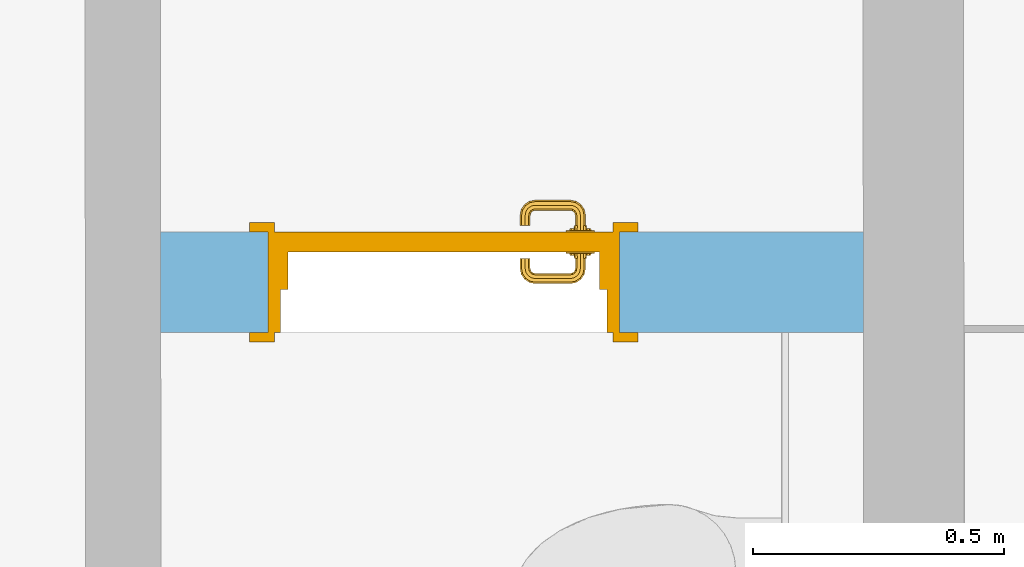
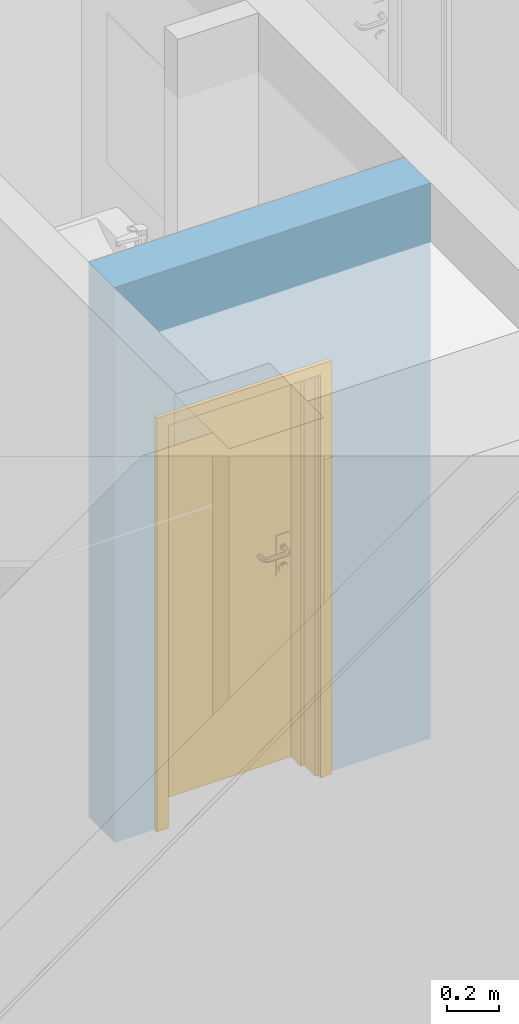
# One storey, part 36 of 127: 1 door, 1 opening, plus 1 element that does not belong to this part.
"""IFC2X3 building model written with IfcOpenShell, lengths in millimetres."""

from ifc_helpers import new_model, entity, si_unit, converted_unit, derived_unit, money_unit, direction, frame, origin_with_axes, origin_2d_with_axis, place, context, subcontext, project, spatial, polyline, rectangle, outline, extrude, open_shell, faceted_brep, surface_model, material, layer, layer_set, layer_usage, type_object, element, fill, save


model = new_model("IFC2X3")

# Units and contexts
model_context = context("Model", 3, precision=1e-05, world=origin_with_axes(), true_north=direction((0.0, 1.0)))
body_context = subcontext(model_context, "Body", "Model", "MODEL_VIEW")
ifc_project = project(units=[si_unit("LENGTHUNIT", "METRE", prefix="MILLI"), si_unit("AREAUNIT", "SQUARE_METRE"), si_unit("VOLUMEUNIT", "CUBIC_METRE"), converted_unit("PLANEANGLEUNIT", "DEGREE", entity("IfcPlaneAngleMeasure", 0.0174532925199), si_unit("PLANEANGLEUNIT", "RADIAN"), dimensions=[0, 0, 0, 0, 0, 0, 0]), si_unit("SOLIDANGLEUNIT", "STERADIAN"), money_unit("EUR"), converted_unit("TIMEUNIT", "Year", entity("IfcTimeMeasure", 31556926.0), si_unit("TIMEUNIT", "SECOND"), dimensions=[0, 0, 1, 0, 0, 0, 0]), si_unit("MASSUNIT", "GRAM", prefix="KILO"), si_unit("THERMODYNAMICTEMPERATUREUNIT", "DEGREE_CELSIUS"), si_unit("LUMINOUSINTENSITYUNIT", "LUMEN"), si_unit("ENERGYUNIT", "JOULE", prefix="MEGA"), derived_unit("THERMALCONDUCTANCEUNIT", [(si_unit("POWERUNIT", "WATT"), 1), (si_unit("LENGTHUNIT", "METRE"), -1), (si_unit("THERMODYNAMICTEMPERATUREUNIT", "KELVIN"), -1)]), derived_unit("SPECIFICHEATCAPACITYUNIT", [(si_unit("ENERGYUNIT", "JOULE"), 1), (si_unit("MASSUNIT", "GRAM", prefix="KILO"), -1), (si_unit("THERMODYNAMICTEMPERATUREUNIT", "KELVIN"), -1)]), derived_unit("MASSDENSITYUNIT", [(si_unit("MASSUNIT", "GRAM", prefix="KILO"), 1), (si_unit("VOLUMEUNIT", "CUBIC_METRE"), -1)])], contexts=[model_context])

# Site, building, storey
site_placement = place(None, origin_with_axes())
site = spatial("IfcSite", under=ifc_project, at=site_placement, Name="Site", CompositionType="ELEMENT")
building_placement = place(site_placement, origin_with_axes())
building = spatial("IfcBuilding", under=site, at=building_placement, Name="Building", CompositionType="ELEMENT")
storey_placement = place(building_placement, origin_with_axes())
storey = spatial("IfcBuildingStorey", under=building, at=storey_placement, Name="1 KORRUS", CompositionType="ELEMENT", Elevation=0.0)

# Wall, opening, door
ifc_material = material(Name="Kivi -Ol.Olev Konstruktsioon")
ifc_layer = layer(ifc_material, 200.0, ventilated="UNKNOWN")
ifc_layer_set = layer_set([ifc_layer], Name="ol.olev ss 200")
ifc_layer_usage = layer_usage(ifc_layer_set, "AXIS2", "POSITIVE", 0.0)
wall_type = type_object("IfcWallType", Name="SW - 036", PredefinedType="NOTDEFINED")
wall_placement = place(storey_placement, frame((24743.8891133, 35914.8641392, 0.0), z_axis=(0.0, 0.0, 1.0), x_axis=(1.0, 0.0, 0.0)))
wall = element("IfcWallStandardCase", 1, at=wall_placement, inside=storey, type_object=wall_type, material=ifc_layer_usage, Name="ol.olev ss 200", context=body_context, shape_type="SweptSolid", body=[
    extrude(outline(polyline([(150.00011126, 0.0), (1549.77627619, 0.0), (1549.53273874, 200.0), (149.756573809, 200.0), (150.00011126, 0.0)])), origin_with_axes(), (0.0, 0.0, 1.0), 2600.0),
])
opening_placement = place(wall_placement, frame((713.987273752, 0.0, 0.0), z_axis=(0.0, 0.0, 1.0), x_axis=(1.0, 0.0, 0.0)))
opening = element("IfcOpeningElement", 2, at=opening_placement, cuts=wall, Name="Siseuks * Door 22", context=body_context, shape_type="SweptSolid", body=[
    extrude(rectangle(XDim=700.0, YDim=1900.0, at=origin_2d_with_axis()), frame((0.0, -200.0, 950.0), z_axis=(0.0, -1.0, 0.0), x_axis=(-1.0, 0.0, 0.0)), (0.0, 0.0, -1.0), 600.0),
    extrude(rectangle(XDim=774.0, YDim=1937.0, at=origin_2d_with_axis()), frame((0.0, 0.0, 968.5), z_axis=(0.0, -1.0, 0.0), x_axis=(-1.0, 0.0, 0.0)), (0.0, 0.0, 1.0), 200.0),
    extrude(rectangle(XDim=774.0, YDim=1937.0, at=origin_2d_with_axis()), frame((0.0, 200.0, 968.5), z_axis=(0.0, 1.0, 0.0), x_axis=(-1.0, 0.0, 0.0)), (0.0, 0.0, 1.0), 200.0),
])
door_style = type_object("IfcDoorStyle", Name="SU-B104A   700×1\xa0900", ConstructionType="NOTDEFINED", OperationType="SINGLE_SWING_LEFT", ParameterTakesPrecedence=False, Sizeable=False)
door_placement = place(opening_placement, frame((-350.0, 0.0, 0.0), z_axis=(0.0, 0.0, 1.0), x_axis=(1.0, 0.0, 0.0)))
door = element("IfcDoor", 3, at=door_placement, inside=storey, type_object=door_style, Name="Siseuks * Door 22", OverallHeight=1900.0, OverallWidth=700.0, context=body_context, shape_type="SurfaceModel", body=[
    faceted_brep([(700.0, 85.0, 0.0), (700.0, 0.0, 0.0), (675.0, 0.0, 0.0), (675.0, 85.0, 0.0), (700.0, 85.0, 1900.0), (700.0, 0.0, 1900.0), (675.0, 0.0, 1875.0), (675.0, 85.0, 1875.0)], [[[0, 1, 2, 3]], [[4, 5, 1, 0]], [[1, 5, 6, 2]], [[3, 2, 6, 7]], [[0, 3, 7, 4]], [[7, 6, 5, 4]]]),
    faceted_brep([(0.0, 85.0, 1900.0), (0.0, 0.0, 1900.0), (25.0, 0.0, 1875.0), (25.0, 85.0, 1875.0), (0.0, 85.0, 0.0), (0.0, 0.0, 0.0), (25.0, 0.0, 0.0), (25.0, 85.0, 0.0)], [[[0, 1, 2, 3]], [[4, 5, 1, 0]], [[1, 5, 6, 2]], [[3, 2, 6, 7]], [[0, 3, 7, 4]], [[7, 6, 5, 4]]]),
    faceted_brep([(675.0, 85.0, 1875.0), (675.0, 0.0, 1875.0), (25.0, 0.0, 1875.0), (25.0, 85.0, 1875.0), (700.0, 85.0, 1900.0), (700.0, 0.0, 1900.0), (0.0, 0.0, 1900.0), (0.0, 85.0, 1900.0)], [[[0, 1, 2, 3]], [[4, 5, 1, 0]], [[1, 5, 6, 2]], [[3, 2, 6, 7]], [[0, 3, 7, 4]], [[7, 6, 5, 4]]]),
    faceted_brep([(737.0, -19.0000000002, 0.0), (687.0, -19.0000000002, 0.0), (687.0, 0.0, 0.0), (737.0, 0.0, 0.0), (737.0, -19.0000000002, 1937.0), (687.0, -19.0000000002, 1887.0), (687.0, 0.0, 1887.0), (737.0, 0.0, 1937.0)], [[[0, 1, 2, 3]], [[0, 4, 5, 1]], [[1, 5, 6, 2]], [[3, 2, 6, 7]], [[4, 0, 3, 7]], [[5, 4, 7, 6]]]),
    faceted_brep([(-36.9999999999, -19.0000000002, 1937.0), (13.0, -19.0000000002, 1887.0), (13.0, 0.0, 1887.0), (-36.9999999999, 0.0, 1937.0), (-36.9999999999, -19.0000000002, 0.0), (13.0, -19.0000000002, 0.0), (13.0, 0.0, 0.0), (-36.9999999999, 0.0, 0.0)], [[[0, 1, 2, 3]], [[0, 4, 5, 1]], [[1, 5, 6, 2]], [[3, 2, 6, 7]], [[4, 0, 3, 7]], [[5, 4, 7, 6]]]),
    faceted_brep([(737.0, -19.0000000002, 1937.0), (687.0, -19.0000000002, 1887.0), (687.0, 0.0, 1887.0), (737.0, 0.0, 1937.0), (-36.9999999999, -19.0000000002, 1937.0), (13.0, -19.0000000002, 1887.0), (13.0, 0.0, 1887.0), (-36.9999999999, 0.0, 1937.0)], [[[0, 1, 2, 3]], [[0, 4, 5, 1]], [[1, 5, 6, 2]], [[3, 2, 6, 7]], [[4, 0, 3, 7]], [[5, 4, 7, 6]]]),
    faceted_brep([(737.0, 219.0, 0.0), (737.0, 200.0, 0.0), (687.0, 200.0, 0.0), (687.0, 219.0, 0.0), (737.0, 219.0, 1937.0), (737.0, 200.0, 1937.0), (687.0, 200.0, 1887.0), (687.0, 219.0, 1887.0)], [[[0, 1, 2, 3]], [[4, 5, 1, 0]], [[1, 5, 6, 2]], [[3, 2, 6, 7]], [[0, 3, 7, 4]], [[7, 6, 5, 4]]]),
    faceted_brep([(-36.9999999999, 219.0, 1937.0), (-36.9999999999, 200.0, 1937.0), (13.0, 200.0, 1887.0), (13.0, 219.0, 1887.0), (-36.9999999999, 219.0, 0.0), (-36.9999999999, 200.0, 0.0), (13.0, 200.0, 0.0), (13.0, 219.0, 0.0)], [[[0, 1, 2, 3]], [[4, 5, 1, 0]], [[1, 5, 6, 2]], [[3, 2, 6, 7]], [[0, 3, 7, 4]], [[7, 6, 5, 4]]]),
    faceted_brep([(737.0, 219.0, 1937.0), (737.0, 200.0, 1937.0), (687.0, 200.0, 1887.0), (687.0, 219.0, 1887.0), (-36.9999999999, 219.0, 1937.0), (-36.9999999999, 200.0, 1937.0), (13.0, 200.0, 1887.0), (13.0, 219.0, 1887.0)], [[[0, 1, 2, 3]], [[4, 5, 1, 0]], [[1, 5, 6, 2]], [[3, 2, 6, 7]], [[0, 3, 7, 4]], [[7, 6, 5, 4]]]),
    faceted_brep([(660.0, 160.0, 0.0), (660.0, 85.0, 0.0), (660.0, 85.0, 1860.0), (660.0, 160.0, 1860.0), (672.0, 160.0, 0.0), (672.0, 200.0, 0.0), (700.0, 200.0, 0.0), (700.0, 85.0, 0.0), (700.0, 85.0, 1860.0), (672.0, 160.0, 1860.0), (700.0, 200.0, 1860.0), (672.0, 200.0, 1860.0)], [[[0, 1, 2, 3]], [[4, 5, 6, 7, 1, 0]], [[1, 7, 8, 2]], [[9, 3, 2, 8, 10, 11]], [[9, 4, 0, 3]], [[11, 5, 4, 9]], [[11, 10, 6, 5]], [[6, 10, 8, 7]]]),
    faceted_brep([(28.0, 160.0, 1860.0), (28.0, 200.0, 1860.0), (0.0, 200.0, 1860.0), (0.0, 85.0, 1860.0), (40.0000000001, 85.0, 1860.0), (40.0000000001, 160.0, 1860.0), (28.0, 160.0, 0.0), (28.0, 200.0, 0.0), (0.0, 200.0, 0.0), (0.0, 85.0, 0.0), (40.0000000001, 85.0, 0.0), (40.0000000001, 160.0, 0.0)], [[[0, 1, 2, 3, 4, 5]], [[0, 6, 7, 1]], [[7, 8, 2, 1]], [[2, 8, 9, 3]], [[3, 9, 10, 4]], [[5, 4, 10, 11]], [[5, 11, 6, 0]], [[6, 11, 10, 9, 8, 7]]]),
    faceted_brep([(672.0, 200.0, 1872.0), (28.0, 200.0, 1872.0), (28.0, 200.0, 1860.0), (0.0, 200.0, 1860.0), (0.0, 200.0, 1900.0), (700.0, 200.0, 1900.0), (700.0, 200.0, 1860.0), (672.0, 200.0, 1860.0), (672.0, 160.0, 1872.0), (28.0, 160.0, 1872.0), (28.0, 160.0, 1860.0), (40.0000000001, 160.0, 1860.0), (40.0000000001, 85.0, 1860.0), (0.0, 85.0, 1860.0), (0.0, 85.0, 1900.0), (700.0, 85.0, 1900.0), (700.0, 85.0, 1860.0), (672.0, 160.0, 1860.0), (660.0, 85.0, 1860.0), (660.0, 160.0, 1860.0)], [[[0, 1, 2, 3, 4, 5, 6, 7]], [[0, 8, 9, 1]], [[1, 9, 10, 2]], [[10, 11, 12, 13, 3, 2]], [[4, 3, 13, 14]], [[5, 4, 14, 15]], [[6, 5, 15, 16]], [[17, 7, 6, 16, 18, 19]], [[7, 17, 8, 0]], [[10, 9, 8, 17, 19, 11]], [[19, 18, 12, 11]], [[12, 18, 16, 15, 14, 13]]]),
    faceted_brep([(650.5, 160.0, 1060.0), (593.5, 160.0, 1060.0), (593.5, 157.0, 1060.0), (650.5, 157.0, 1060.0), (650.5, 160.0, 870.0), (593.5, 160.0, 870.0), (593.5, 157.0, 870.0), (650.5, 157.0, 870.0)], [[[0, 1, 2, 3]], [[0, 4, 5, 1]], [[1, 5, 6, 2]], [[3, 2, 6, 7]], [[4, 0, 3, 7]], [[5, 4, 7, 6]]]),
    surface_model("IfcShellBasedSurfaceModel", [(612.0, 147.0, 1000.0), (614.928932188, 147.0, 992.928932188), (614.928932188, 127.696439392, 992.928932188), (612.0, 127.984914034, 1000.0), (622.0, 147.0, 990.0), (622.0, 126.999999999, 990.0), (613.816790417, 122.105325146, 992.928932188), (611.057796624, 123.248137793, 1000.0), (614.928932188, 147.0, 1007.07106781), (614.928932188, 127.696439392, 1007.07106781), (629.071067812, 147.0, 992.928932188), (629.071067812, 126.303560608, 992.928932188), (620.47759065, 119.346331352, 990.0), (611.044179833, 117.955820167, 992.928932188), (608.932537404, 120.067462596, 1000.0), (613.816790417, 122.105325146, 1007.07106781), (622.0, 147.0, 1010.0), (622.0, 126.999999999, 1010.0), (632.0, 147.0, 1000.0), (632.0, 126.015085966, 1000.0), (627.138390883, 116.587337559, 992.928932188), (616.142135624, 112.857864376, 990.0), (606.894674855, 115.183209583, 992.928932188), (605.751862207, 117.942203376, 1000.0), (611.044179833, 117.955820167, 1007.07106781), (620.47759065, 119.346331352, 1010.0), (629.071067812, 147.0, 1007.07106781), (629.071067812, 126.303560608, 1007.07106781), (629.897384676, 115.444524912, 1000.0), (621.240091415, 107.759908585, 992.928932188), (609.653668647, 108.522409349, 990.0), (601.303560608, 114.071067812, 992.928932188), (601.015085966, 117.0, 1000.0), (606.894674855, 115.183209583, 1007.07106781), (616.142135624, 112.857864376, 1010.0), (627.138390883, 116.587337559, 1007.07106781), (623.351733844, 105.648266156, 1000.0), (612.41266244, 101.861609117, 992.928932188), (602.0, 107.0, 990.0), (532.696439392, 114.071067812, 992.928932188), (532.984914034, 117.0, 1000.0), (601.303560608, 114.071067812, 1007.07106781), (609.653668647, 108.522409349, 1010.0), (621.240091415, 107.759908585, 1007.07106781), (613.555475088, 99.1026153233, 1000.0), (602.696439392, 99.928932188, 992.928932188), (532.0, 107.0, 990.0), (527.105325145, 115.183209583, 992.928932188), (528.248137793, 117.942203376, 1000.0), (532.696439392, 114.071067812, 1007.07106781), (602.0, 107.0, 1010.0), (612.41266244, 101.861609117, 1007.07106781), (602.984914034, 96.9999999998, 1000.0), (531.303560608, 99.928932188, 992.928932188), (524.346331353, 108.522409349, 990.0), (522.955820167, 117.955820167, 992.928932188), (525.067462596, 120.067462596, 1000.0), (527.105325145, 115.183209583, 1007.07106781), (532.0, 107.0, 1010.0), (602.696439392, 99.928932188, 1007.07106781), (531.015085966, 96.9999999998, 1000.0), (521.58733756, 101.861609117, 992.928932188), (517.857864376, 112.857864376, 990.0), (520.183209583, 122.105325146, 992.928932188), (522.942203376, 123.248137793, 1000.0), (522.955820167, 117.955820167, 1007.07106781), (524.346331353, 108.522409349, 1010.0), (531.303560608, 99.928932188, 1007.07106781), (520.444524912, 99.1026153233, 1000.0), (512.759908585, 107.759908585, 992.928932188), (513.52240935, 119.346331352, 990.0), (519.071067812, 127.696439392, 992.928932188), (522.0, 127.984914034, 1000.0), (520.183209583, 122.105325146, 1007.07106781), (517.857864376, 112.857864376, 1010.0), (521.58733756, 101.861609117, 1007.07106781), (510.648266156, 105.648266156, 1000.0), (506.861609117, 116.587337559, 992.928932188), (512.0, 126.999999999, 990.0), (519.071067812, 147.0, 992.928932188), (522.0, 147.0, 1000.0), (519.071067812, 127.696439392, 1007.07106781), (513.52240935, 119.346331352, 1010.0), (512.759908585, 107.759908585, 1007.07106781), (504.102615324, 115.444524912, 1000.0), (504.928932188, 126.303560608, 992.928932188), (512.0, 147.0, 990.0), (504.928932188, 147.0, 992.928932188), (502.0, 147.0, 1000.0), (504.928932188, 147.0, 1007.07106781), (512.0, 147.0, 1010.0), (519.071067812, 147.0, 1007.07106781), (512.0, 126.999999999, 1010.0), (506.861609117, 116.587337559, 1007.07106781), (502.0, 126.015085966, 1000.0), (504.928932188, 126.303560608, 1007.07106781)], [open_shell([[[0, 1, 2, 3]], [[1, 4, 5, 2]], [[3, 2, 6, 7]], [[8, 0, 3, 9]], [[4, 10, 11, 5]], [[2, 5, 12, 6]], [[7, 6, 13, 14]], [[9, 3, 7, 15]], [[16, 8, 9, 17]], [[10, 18, 19, 11]], [[5, 11, 20, 12]], [[6, 12, 21, 13]], [[14, 13, 22, 23]], [[15, 7, 14, 24]], [[17, 9, 15, 25]], [[26, 16, 17, 27]], [[18, 26, 27, 19]], [[11, 19, 28, 20]], [[12, 20, 29, 21]], [[13, 21, 30, 22]], [[23, 22, 31, 32]], [[24, 14, 23, 33]], [[25, 15, 24, 34]], [[27, 17, 25, 35]], [[19, 27, 35, 28]], [[20, 28, 36, 29]], [[21, 29, 37, 30]], [[22, 30, 38, 31]], [[32, 31, 39, 40]], [[33, 23, 32, 41]], [[34, 24, 33, 42]], [[35, 25, 34, 43]], [[28, 35, 43, 36]], [[29, 36, 44, 37]], [[30, 37, 45, 38]], [[31, 38, 46, 39]], [[40, 39, 47, 48]], [[41, 32, 40, 49]], [[42, 33, 41, 50]], [[43, 34, 42, 51]], [[36, 43, 51, 44]], [[37, 44, 52, 45]], [[38, 45, 53, 46]], [[39, 46, 54, 47]], [[48, 47, 55, 56]], [[49, 40, 48, 57]], [[50, 41, 49, 58]], [[51, 42, 50, 59]], [[44, 51, 59, 52]], [[45, 52, 60, 53]], [[46, 53, 61, 54]], [[47, 54, 62, 55]], [[56, 55, 63, 64]], [[57, 48, 56, 65]], [[58, 49, 57, 66]], [[59, 50, 58, 67]], [[52, 59, 67, 60]], [[53, 60, 68, 61]], [[54, 61, 69, 62]], [[55, 62, 70, 63]], [[64, 63, 71, 72]], [[65, 56, 64, 73]], [[66, 57, 65, 74]], [[67, 58, 66, 75]], [[60, 67, 75, 68]], [[61, 68, 76, 69]], [[62, 69, 77, 70]], [[63, 70, 78, 71]], [[72, 71, 79, 80]], [[73, 64, 72, 81]], [[74, 65, 73, 82]], [[75, 66, 74, 83]], [[68, 75, 83, 76]], [[69, 76, 84, 77]], [[70, 77, 85, 78]], [[71, 78, 86, 79]], [[80, 79, 86, 87, 88, 89, 90, 91]], [[81, 72, 80, 91]], [[82, 73, 81, 92]], [[83, 74, 82, 93]], [[76, 83, 93, 84]], [[77, 84, 94, 85]], [[78, 85, 87, 86]], [[85, 94, 88, 87]], [[94, 95, 89, 88]], [[95, 92, 90, 89]], [[92, 81, 91, 90]], [[93, 82, 92, 95]], [[84, 93, 95, 94]]])]),
    faceted_brep([(611.607695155, 147.0, 994.0), (610.0, 147.0, 1000.0), (609.0, 157.0, 1000.0), (610.741669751, 157.0, 993.5), (616.0, 147.0, 989.607695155), (622.0, 147.0, 988.0), (628.0, 147.0, 989.607695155), (632.392304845, 147.0, 994.0), (634.0, 147.0, 1000.0), (632.392304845, 147.0, 1006.0), (628.0, 147.0, 1010.39230485), (622.0, 147.0, 1012.0), (616.0, 147.0, 1010.39230485), (611.607695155, 147.0, 1006.0), (610.741669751, 157.0, 1006.5), (615.5, 157.0, 1011.25833025), (622.0, 157.0, 1013.0), (628.5, 157.0, 1011.25833025), (633.258330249, 157.0, 1006.5), (635.0, 157.0, 1000.0), (633.258330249, 157.0, 993.5), (628.5, 157.0, 988.741669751), (622.0, 157.0, 987.0), (615.5, 157.0, 988.741669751)], [[[0, 1, 2, 3]], [[1, 0, 4, 5, 6, 7, 8, 9, 10, 11, 12, 13]], [[1, 13, 14, 2]], [[2, 14, 15, 16, 17, 18, 19, 20, 21, 22, 23, 3]], [[4, 0, 3, 23]], [[5, 4, 23, 22]], [[6, 5, 22, 21]], [[7, 6, 21, 20]], [[8, 7, 20, 19]], [[9, 8, 19, 18]], [[10, 9, 18, 17]], [[11, 10, 17, 16]], [[12, 11, 16, 15]], [[13, 12, 15, 14]]]),
    faceted_brep([(604.679491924, 153.0, 895.0), (602.0, 153.0, 905.0), (600.0, 157.0, 905.0), (602.947441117, 157.0, 894.0), (612.0, 153.0, 887.679491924), (622.0, 153.0, 885.0), (632.0, 153.0, 887.679491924), (639.320508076, 153.0, 895.0), (642.0, 153.0, 905.0), (639.320508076, 153.0, 915.0), (632.0, 153.0, 922.320508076), (622.0, 153.0, 925.0), (612.0, 153.0, 922.320508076), (604.679491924, 153.0, 915.0), (602.947441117, 157.0, 916.0), (611.0, 157.0, 924.052558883), (622.0, 157.0, 927.0), (633.0, 157.0, 924.052558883), (641.052558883, 157.0, 916.0), (644.0, 157.0, 905.0), (641.052558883, 157.0, 894.0), (633.0, 157.0, 885.947441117), (622.0, 157.0, 883.0), (611.0, 157.0, 885.947441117)], [[[0, 1, 2, 3]], [[1, 0, 4, 5, 6, 7, 8, 9, 10, 11, 12, 13]], [[1, 13, 14, 2]], [[2, 14, 15, 16, 17, 18, 19, 20, 21, 22, 23, 3]], [[4, 0, 3, 23]], [[5, 4, 23, 22]], [[6, 5, 22, 21]], [[7, 6, 21, 20]], [[8, 7, 20, 19]], [[9, 8, 19, 18]], [[10, 9, 18, 17]], [[11, 10, 17, 16]], [[12, 11, 16, 15]], [[13, 12, 15, 14]]]),
    faceted_brep([(617.050252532, 151.0, 909.050252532), (615.0, 151.0, 914.0), (614.0, 153.0, 914.0), (616.343145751, 153.0, 908.343145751), (622.0, 151.0, 907.0), (626.949747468, 151.0, 909.050252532), (629.0, 151.0, 914.0), (626.949747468, 151.0, 918.949747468), (622.0, 151.0, 921.0), (617.050252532, 151.0, 918.949747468), (616.343145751, 153.0, 919.656854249), (622.0, 153.0, 922.0), (627.656854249, 153.0, 919.656854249), (630.0, 153.0, 914.0), (627.656854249, 153.0, 908.343145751), (622.0, 153.0, 906.0)], [[[0, 1, 2, 3]], [[1, 0, 4, 5, 6, 7, 8, 9]], [[1, 9, 10, 2]], [[2, 10, 11, 12, 13, 14, 15, 3]], [[4, 0, 3, 15]], [[5, 4, 15, 14]], [[6, 5, 14, 13]], [[7, 6, 13, 12]], [[8, 7, 12, 11]], [[9, 8, 11, 10]]]),
    faceted_brep([(650.5, 200.0, 1060.0), (650.5, 203.0, 1060.0), (593.5, 203.0, 1060.0), (593.5, 200.0, 1060.0), (650.5, 200.0, 870.0), (650.5, 203.0, 870.0), (593.5, 203.0, 870.0), (593.5, 200.0, 870.0)], [[[0, 1, 2, 3]], [[4, 5, 1, 0]], [[1, 5, 6, 2]], [[3, 2, 6, 7]], [[0, 3, 7, 4]], [[7, 6, 5, 4]]]),
    surface_model("IfcShellBasedSurfaceModel", [(612.0, 213.0, 1000.0), (612.0, 232.015085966, 1000.0), (614.928932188, 232.303560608, 992.928932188), (614.928932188, 213.0, 992.928932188), (614.928932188, 213.0, 1007.07106781), (614.928932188, 232.303560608, 1007.07106781), (611.057796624, 236.751862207, 1000.0), (613.816790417, 237.894674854, 992.928932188), (622.0, 233.0, 990.0), (622.0, 213.0, 990.0), (622.0, 213.0, 1010.0), (622.0, 233.0, 1010.0), (613.816790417, 237.894674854, 1007.07106781), (608.932537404, 239.932537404, 1000.0), (611.044179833, 242.044179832, 992.928932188), (620.47759065, 240.653668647, 990.0), (629.071067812, 233.696439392, 992.928932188), (629.071067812, 213.0, 992.928932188), (629.071067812, 213.0, 1007.07106781), (629.071067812, 233.696439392, 1007.07106781), (620.47759065, 240.653668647, 1010.0), (611.044179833, 242.044179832, 1007.07106781), (605.751862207, 242.057796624, 1000.0), (606.894674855, 244.816790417, 992.928932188), (616.142135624, 247.142135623, 990.0), (627.138390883, 243.41266244, 992.928932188), (632.0, 233.984914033, 1000.0), (632.0, 213.0, 1000.0), (627.138390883, 243.41266244, 1007.07106781), (616.142135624, 247.142135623, 1010.0), (606.894674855, 244.816790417, 1007.07106781), (601.015085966, 242.999999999, 1000.0), (601.303560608, 245.928932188, 992.928932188), (609.653668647, 251.47759065, 990.0), (621.240091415, 252.240091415, 992.928932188), (629.897384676, 244.555475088, 1000.0), (621.240091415, 252.240091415, 1007.07106781), (609.653668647, 251.47759065, 1010.0), (601.303560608, 245.928932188, 1007.07106781), (532.984914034, 242.999999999, 1000.0), (532.696439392, 245.928932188, 992.928932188), (602.0, 253.0, 990.0), (612.41266244, 258.138390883, 992.928932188), (623.351733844, 254.351733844, 1000.0), (612.41266244, 258.138390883, 1007.07106781), (602.0, 253.0, 1010.0), (532.696439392, 245.928932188, 1007.07106781), (528.248137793, 242.057796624, 1000.0), (527.105325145, 244.816790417, 992.928932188), (532.0, 253.0, 990.0), (602.696439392, 260.071067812, 992.928932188), (613.555475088, 260.897384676, 1000.0), (602.696439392, 260.071067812, 1007.07106781), (532.0, 253.0, 1010.0), (527.105325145, 244.816790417, 1007.07106781), (525.067462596, 239.932537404, 1000.0), (522.955820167, 242.044179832, 992.928932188), (524.346331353, 251.47759065, 990.0), (531.303560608, 260.071067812, 992.928932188), (602.984914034, 263.0, 1000.0), (531.303560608, 260.071067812, 1007.07106781), (524.346331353, 251.47759065, 1010.0), (522.955820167, 242.044179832, 1007.07106781), (522.942203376, 236.751862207, 1000.0), (520.183209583, 237.894674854, 992.928932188), (517.857864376, 247.142135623, 990.0), (521.58733756, 258.138390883, 992.928932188), (531.015085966, 263.0, 1000.0), (521.58733756, 258.138390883, 1007.07106781), (517.857864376, 247.142135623, 1010.0), (520.183209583, 237.894674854, 1007.07106781), (522.0, 232.015085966, 1000.0), (519.071067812, 232.303560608, 992.928932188), (513.52240935, 240.653668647, 990.0), (512.759908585, 252.240091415, 992.928932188), (520.444524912, 260.897384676, 1000.0), (512.759908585, 252.240091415, 1007.07106781), (513.52240935, 240.653668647, 1010.0), (519.071067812, 232.303560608, 1007.07106781), (522.0, 213.0, 1000.0), (519.071067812, 213.0, 992.928932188), (512.0, 233.0, 990.0), (506.861609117, 243.41266244, 992.928932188), (510.648266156, 254.351733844, 1000.0), (506.861609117, 243.41266244, 1007.07106781), (512.0, 233.0, 1010.0), (519.071067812, 213.0, 1007.07106781), (512.0, 213.0, 1010.0), (504.928932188, 213.0, 1007.07106781), (502.0, 213.0, 1000.0), (504.928932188, 213.0, 992.928932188), (512.0, 213.0, 990.0), (504.928932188, 233.696439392, 992.928932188), (504.102615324, 244.555475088, 1000.0), (504.928932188, 233.696439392, 1007.07106781), (502.0, 233.984914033, 1000.0)], [open_shell([[[0, 1, 2, 3]], [[4, 5, 1, 0]], [[1, 6, 7, 2]], [[3, 2, 8, 9]], [[10, 11, 5, 4]], [[5, 12, 6, 1]], [[6, 13, 14, 7]], [[2, 7, 15, 8]], [[9, 8, 16, 17]], [[18, 19, 11, 10]], [[11, 20, 12, 5]], [[12, 21, 13, 6]], [[13, 22, 23, 14]], [[7, 14, 24, 15]], [[8, 15, 25, 16]], [[17, 16, 26, 27]], [[27, 26, 19, 18]], [[19, 28, 20, 11]], [[20, 29, 21, 12]], [[21, 30, 22, 13]], [[22, 31, 32, 23]], [[14, 23, 33, 24]], [[15, 24, 34, 25]], [[16, 25, 35, 26]], [[26, 35, 28, 19]], [[28, 36, 29, 20]], [[29, 37, 30, 21]], [[30, 38, 31, 22]], [[31, 39, 40, 32]], [[23, 32, 41, 33]], [[24, 33, 42, 34]], [[25, 34, 43, 35]], [[35, 43, 36, 28]], [[36, 44, 37, 29]], [[37, 45, 38, 30]], [[38, 46, 39, 31]], [[39, 47, 48, 40]], [[32, 40, 49, 41]], [[33, 41, 50, 42]], [[34, 42, 51, 43]], [[43, 51, 44, 36]], [[44, 52, 45, 37]], [[45, 53, 46, 38]], [[46, 54, 47, 39]], [[47, 55, 56, 48]], [[40, 48, 57, 49]], [[41, 49, 58, 50]], [[42, 50, 59, 51]], [[51, 59, 52, 44]], [[52, 60, 53, 45]], [[53, 61, 54, 46]], [[54, 62, 55, 47]], [[55, 63, 64, 56]], [[48, 56, 65, 57]], [[49, 57, 66, 58]], [[50, 58, 67, 59]], [[59, 67, 60, 52]], [[60, 68, 61, 53]], [[61, 69, 62, 54]], [[62, 70, 63, 55]], [[63, 71, 72, 64]], [[56, 64, 73, 65]], [[57, 65, 74, 66]], [[58, 66, 75, 67]], [[67, 75, 68, 60]], [[68, 76, 69, 61]], [[69, 77, 70, 62]], [[70, 78, 71, 63]], [[71, 79, 80, 72]], [[64, 72, 81, 73]], [[65, 73, 82, 74]], [[66, 74, 83, 75]], [[75, 83, 76, 68]], [[76, 84, 77, 69]], [[77, 85, 78, 70]], [[78, 86, 79, 71]], [[79, 86, 87, 88, 89, 90, 91, 80]], [[72, 80, 91, 81]], [[73, 81, 92, 82]], [[74, 82, 93, 83]], [[83, 93, 84, 76]], [[84, 94, 85, 77]], [[85, 87, 86, 78]], [[94, 88, 87, 85]], [[95, 89, 88, 94]], [[92, 90, 89, 95]], [[81, 91, 90, 92]], [[82, 92, 95, 93]], [[93, 95, 94, 84]]])]),
    faceted_brep([(611.607695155, 213.0, 994.0), (610.741669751, 203.0, 993.5), (609.0, 203.0, 1000.0), (610.0, 213.0, 1000.0), (616.0, 213.0, 989.607695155), (615.5, 203.0, 988.741669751), (622.0, 203.0, 987.0), (628.5, 203.0, 988.741669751), (633.258330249, 203.0, 993.5), (635.0, 203.0, 1000.0), (633.258330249, 203.0, 1006.5), (628.5, 203.0, 1011.25833025), (622.0, 203.0, 1013.0), (615.5, 203.0, 1011.25833025), (610.741669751, 203.0, 1006.5), (611.607695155, 213.0, 1006.0), (616.0, 213.0, 1010.39230485), (622.0, 213.0, 1012.0), (628.0, 213.0, 1010.39230485), (632.392304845, 213.0, 1006.0), (634.0, 213.0, 1000.0), (632.392304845, 213.0, 994.0), (628.0, 213.0, 989.607695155), (622.0, 213.0, 988.0)], [[[0, 1, 2, 3]], [[4, 5, 1, 0]], [[2, 1, 5, 6, 7, 8, 9, 10, 11, 12, 13, 14]], [[3, 2, 14, 15]], [[3, 15, 16, 17, 18, 19, 20, 21, 22, 23, 4, 0]], [[23, 6, 5, 4]], [[22, 7, 6, 23]], [[21, 8, 7, 22]], [[20, 9, 8, 21]], [[19, 10, 9, 20]], [[18, 11, 10, 19]], [[17, 12, 11, 18]], [[16, 13, 12, 17]], [[15, 14, 13, 16]]]),
    faceted_brep([(604.679491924, 206.999999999, 895.0), (602.947441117, 203.0, 894.0), (600.0, 203.0, 905.0), (602.0, 206.999999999, 905.0), (612.0, 206.999999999, 887.679491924), (611.0, 203.0, 885.947441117), (622.0, 203.0, 883.0), (633.0, 203.0, 885.947441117), (641.052558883, 203.0, 894.0), (644.0, 203.0, 905.0), (641.052558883, 203.0, 916.0), (633.0, 203.0, 924.052558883), (622.0, 203.0, 927.0), (611.0, 203.0, 924.052558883), (602.947441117, 203.0, 916.0), (604.679491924, 206.999999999, 915.0), (612.0, 206.999999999, 922.320508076), (622.0, 206.999999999, 925.0), (632.0, 206.999999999, 922.320508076), (639.320508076, 206.999999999, 915.0), (642.0, 206.999999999, 905.0), (639.320508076, 206.999999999, 895.0), (632.0, 206.999999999, 887.679491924), (622.0, 206.999999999, 885.0)], [[[0, 1, 2, 3]], [[4, 5, 1, 0]], [[2, 1, 5, 6, 7, 8, 9, 10, 11, 12, 13, 14]], [[3, 2, 14, 15]], [[3, 15, 16, 17, 18, 19, 20, 21, 22, 23, 4, 0]], [[23, 6, 5, 4]], [[22, 7, 6, 23]], [[21, 8, 7, 22]], [[20, 9, 8, 21]], [[19, 10, 9, 20]], [[18, 11, 10, 19]], [[17, 12, 11, 18]], [[16, 13, 12, 17]], [[15, 14, 13, 16]]]),
    faceted_brep([(617.050252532, 209.0, 909.050252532), (616.343145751, 206.999999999, 908.343145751), (614.0, 206.999999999, 914.0), (615.0, 209.0, 914.0), (622.0, 209.0, 907.0), (622.0, 206.999999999, 906.0), (627.656854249, 206.999999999, 908.343145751), (630.0, 206.999999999, 914.0), (627.656854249, 206.999999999, 919.656854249), (622.0, 206.999999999, 922.0), (616.343145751, 206.999999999, 919.656854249), (617.050252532, 209.0, 918.949747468), (622.0, 209.0, 921.0), (626.949747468, 209.0, 918.949747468), (629.0, 209.0, 914.0), (626.949747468, 209.0, 909.050252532)], [[[0, 1, 2, 3]], [[4, 5, 1, 0]], [[2, 1, 5, 6, 7, 8, 9, 10]], [[3, 2, 10, 11]], [[3, 11, 12, 13, 14, 15, 4, 0]], [[15, 6, 5, 4]], [[14, 7, 6, 15]], [[13, 8, 7, 14]], [[12, 9, 8, 13]], [[11, 10, 9, 12]]]),
    faceted_brep([(28.0, 200.0, 0.0), (672.0, 200.0, 0.0), (672.0, 160.0, 0.0), (28.0, 160.0, 0.0), (28.0, 200.0, 1872.0), (672.0, 200.0, 1872.0), (672.0, 160.0, 1872.0), (28.0, 160.0, 1872.0)], [[[0, 1, 2, 3]], [[0, 4, 5, 1]], [[1, 5, 6, 2]], [[3, 2, 6, 7]], [[4, 0, 3, 7]], [[5, 4, 7, 6]]]),
])
fill(opening, door)

save(model, "model.ifc")
